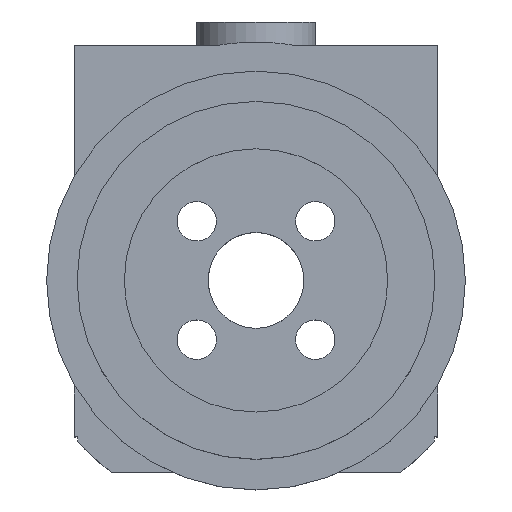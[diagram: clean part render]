
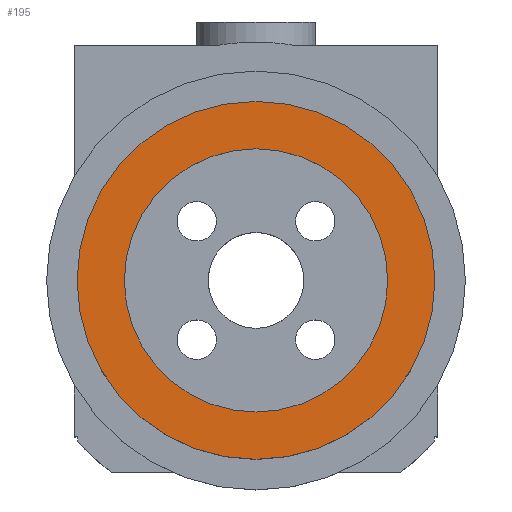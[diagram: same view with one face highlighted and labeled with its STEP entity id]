
A CAD part, top view. The second image highlights one B-rep face of the part: STEP entity #195.
In plain terms, the highlighted planar face has unit normal (0, 0, 1).
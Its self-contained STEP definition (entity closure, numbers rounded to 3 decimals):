
#129 = CYLINDRICAL_SURFACE('',#130,14.95);
#130 = AXIS2_PLACEMENT_3D('',#131,#132,#133);
#131 = CARTESIAN_POINT('',(0.,0.,-5.3));
#132 = DIRECTION('',(-0.,-0.,-1.));
#133 = DIRECTION('',(1.,0.,0.));
#145 = VERTEX_POINT('',#146);
#146 = CARTESIAN_POINT('',(14.95,0.,1.7));
#167 = EDGE_CURVE('',#145,#145,#168,.T.);
#168 = SURFACE_CURVE('',#169,(#174,#181),.PCURVE_S1.);
#169 = CIRCLE('',#170,14.95);
#170 = AXIS2_PLACEMENT_3D('',#171,#172,#173);
#171 = CARTESIAN_POINT('',(0.,0.,1.7));
#172 = DIRECTION('',(0.,0.,1.));
#173 = DIRECTION('',(1.,0.,0.));
#174 = PCURVE('',#129,#175);
#175 = DEFINITIONAL_REPRESENTATION('',(#176),#180);
#176 = LINE('',#177,#178);
#177 = CARTESIAN_POINT('',(-0.,-7.));
#178 = VECTOR('',#179,1.);
#179 = DIRECTION('',(-1.,0.));
#180 = ( GEOMETRIC_REPRESENTATION_CONTEXT(2) 
PARAMETRIC_REPRESENTATION_CONTEXT() REPRESENTATION_CONTEXT('2D SPACE',''
  ) );
#181 = PCURVE('',#182,#187);
#182 = PLANE('',#183);
#183 = AXIS2_PLACEMENT_3D('',#184,#185,#186);
#184 = CARTESIAN_POINT('',(0.,0.,1.7));
#185 = DIRECTION('',(0.,0.,1.));
#186 = DIRECTION('',(1.,0.,-0.));
#187 = DEFINITIONAL_REPRESENTATION('',(#188),#192);
#188 = CIRCLE('',#189,14.95);
#189 = AXIS2_PLACEMENT_2D('',#190,#191);
#190 = CARTESIAN_POINT('',(0.,0.));
#191 = DIRECTION('',(1.,0.));
#192 = ( GEOMETRIC_REPRESENTATION_CONTEXT(2) 
PARAMETRIC_REPRESENTATION_CONTEXT() REPRESENTATION_CONTEXT('2D SPACE',''
  ) );
#195 = ADVANCED_FACE('',(#196,#199),#182,.T.);
#196 = FACE_BOUND('',#197,.T.);
#197 = EDGE_LOOP('',(#198));
#198 = ORIENTED_EDGE('',*,*,#167,.T.);
#199 = FACE_BOUND('',#200,.T.);
#200 = EDGE_LOOP('',(#201));
#201 = ORIENTED_EDGE('',*,*,#202,.T.);
#202 = EDGE_CURVE('',#203,#203,#205,.T.);
#203 = VERTEX_POINT('',#204);
#204 = CARTESIAN_POINT('',(11.,0.,1.7));
#205 = SURFACE_CURVE('',#206,(#211,#222),.PCURVE_S1.);
#206 = CIRCLE('',#207,11.);
#207 = AXIS2_PLACEMENT_3D('',#208,#209,#210);
#208 = CARTESIAN_POINT('',(0.,0.,1.7));
#209 = DIRECTION('',(0.,0.,-1.));
#210 = DIRECTION('',(1.,0.,0.));
#211 = PCURVE('',#182,#212);
#212 = DEFINITIONAL_REPRESENTATION('',(#213),#221);
#213 = ( BOUNDED_CURVE() B_SPLINE_CURVE(2,(#214,#215,#216,#217,#218,#219
,#220),.UNSPECIFIED.,.T.,.F.) B_SPLINE_CURVE_WITH_KNOTS((1,2,2,2,2,1),(
    -2.094,0.,2.094,4.189,6.283,
8.378),.UNSPECIFIED.) CURVE() GEOMETRIC_REPRESENTATION_ITEM() 
RATIONAL_B_SPLINE_CURVE((1.,0.5,1.,0.5,1.,0.5,1.)) REPRESENTATION_ITEM(
  '') );
#214 = CARTESIAN_POINT('',(11.,0.));
#215 = CARTESIAN_POINT('',(11.,-19.053));
#216 = CARTESIAN_POINT('',(-5.5,-9.526));
#217 = CARTESIAN_POINT('',(-22.,0.));
#218 = CARTESIAN_POINT('',(-5.5,9.526));
#219 = CARTESIAN_POINT('',(11.,19.053));
#220 = CARTESIAN_POINT('',(11.,0.));
#221 = ( GEOMETRIC_REPRESENTATION_CONTEXT(2) 
PARAMETRIC_REPRESENTATION_CONTEXT() REPRESENTATION_CONTEXT('2D SPACE',''
  ) );
#222 = PCURVE('',#223,#228);
#223 = CYLINDRICAL_SURFACE('',#224,11.);
#224 = AXIS2_PLACEMENT_3D('',#225,#226,#227);
#225 = CARTESIAN_POINT('',(0.,0.,0.));
#226 = DIRECTION('',(-0.,-0.,-1.));
#227 = DIRECTION('',(1.,0.,0.));
#228 = DEFINITIONAL_REPRESENTATION('',(#229),#233);
#229 = LINE('',#230,#231);
#230 = CARTESIAN_POINT('',(-6.283,-1.7));
#231 = VECTOR('',#232,1.);
#232 = DIRECTION('',(1.,-0.));
#233 = ( GEOMETRIC_REPRESENTATION_CONTEXT(2) 
PARAMETRIC_REPRESENTATION_CONTEXT() REPRESENTATION_CONTEXT('2D SPACE',''
  ) );
